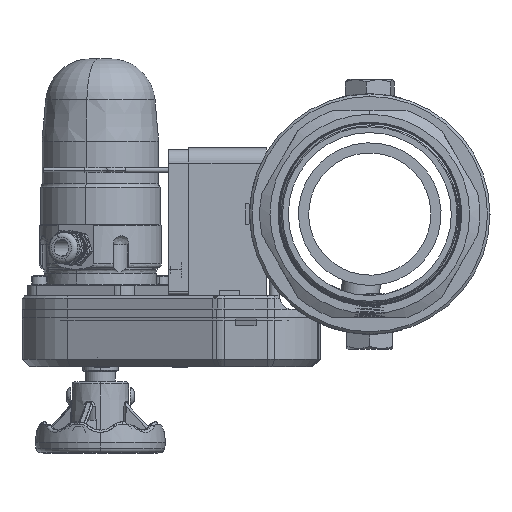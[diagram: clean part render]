
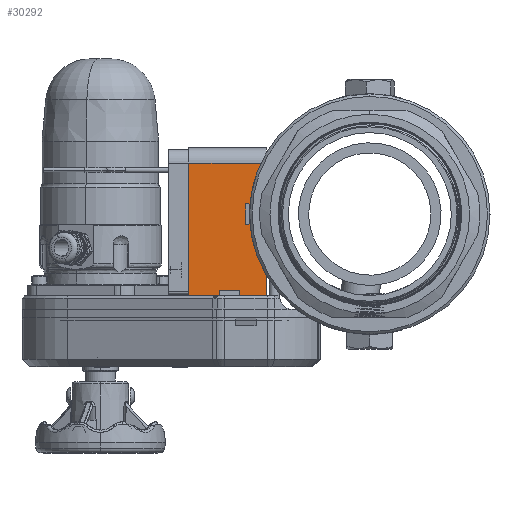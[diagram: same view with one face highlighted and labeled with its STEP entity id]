
A CAD part, front view. The second image highlights one B-rep face of the part: STEP entity #30292.
In plain terms, the highlighted planar face has unit normal (0, -1, 0).
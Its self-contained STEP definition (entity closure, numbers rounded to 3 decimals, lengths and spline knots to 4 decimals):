
#206 = ORIENTED_EDGE ( 'NONE', *, *, #14008, .T. ) ;
#3487 = CARTESIAN_POINT ( 'NONE',  ( -3.04, -4.185, -0.25 ) ) ;
#4943 = EDGE_CURVE ( 'NONE', #47124, #19398, #22278, .T. ) ;
#5003 = EDGE_CURVE ( 'NONE', #23747, #45329, #13721, .T. ) ;
#5522 = VERTEX_POINT ( 'NONE', #32529 ) ;
#5637 = ORIENTED_EDGE ( 'NONE', *, *, #47358, .F. ) ;
#7006 = CARTESIAN_POINT ( 'NONE',  ( -3.7, -4.185, -1.875 ) ) ;
#7264 = LINE ( 'NONE', #36265, #10680 ) ;
#7791 = CARTESIAN_POINT ( 'NONE',  ( -4.47, -4.185, -2. ) ) ;
#7831 = VECTOR ( 'NONE', #40340, 39.3701 ) ;
#8038 = VECTOR ( 'NONE', #37608, 39.3701 ) ;
#8162 = ORIENTED_EDGE ( 'NONE', *, *, #26551, .F. ) ;
#8557 = CARTESIAN_POINT ( 'NONE',  ( -3.04, -4.185, 0.25 ) ) ;
#9264 = EDGE_CURVE ( 'NONE', #5522, #26861, #16870, .T. ) ;
#9437 = VECTOR ( 'NONE', #18274, 39.3701 ) ;
#10680 = VECTOR ( 'NONE', #14409, 39.3701 ) ;
#12580 = VECTOR ( 'NONE', #43910, 39.3701 ) ;
#13377 = EDGE_CURVE ( 'NONE', #22228, #26861, #17369, .T. ) ;
#13607 = EDGE_CURVE ( 'NONE', #45697, #19398, #25364, .T. ) ;
#13721 = LINE ( 'NONE', #42352, #12580 ) ;
#14008 = EDGE_CURVE ( 'NONE', #33046, #23747, #35594, .T. ) ;
#14280 = CARTESIAN_POINT ( 'NONE',  ( -2.54, -4.185, -2. ) ) ;
#14409 = DIRECTION ( 'NONE',  ( 1., 0., 0. ) ) ;
#14799 = LINE ( 'NONE', #46100, #44504 ) ;
#15053 = PLANE ( 'NONE',  #16078 ) ;
#15690 = DIRECTION ( 'NONE',  ( 0., -1., 0. ) ) ;
#16078 = AXIS2_PLACEMENT_3D ( 'NONE', #37056, #15690, #40889 ) ;
#16602 = LINE ( 'NONE', #37452, #8038 ) ;
#16619 = CARTESIAN_POINT ( 'NONE',  ( -4.44, -4.185, -2. ) ) ;
#16870 = LINE ( 'NONE', #36779, #9437 ) ;
#17235 = EDGE_CURVE ( 'NONE', #47124, #31403, #14799, .T. ) ;
#17369 = LINE ( 'NONE', #7791, #27080 ) ;
#17460 = ORIENTED_EDGE ( 'NONE', *, *, #13377, .T. ) ;
#18151 = LINE ( 'NONE', #29087, #31837 ) ;
#18274 = DIRECTION ( 'NONE',  ( 0., 0., -1. ) ) ;
#18749 = ORIENTED_EDGE ( 'NONE', *, *, #9264, .F. ) ;
#19398 = VERTEX_POINT ( 'NONE', #24451 ) ;
#20275 = ORIENTED_EDGE ( 'NONE', *, *, #32946, .F. ) ;
#21199 = DIRECTION ( 'NONE',  ( 0., 0., -1. ) ) ;
#21632 = CARTESIAN_POINT ( 'NONE',  ( -3.2, -4.185, -2. ) ) ;
#22228 = VERTEX_POINT ( 'NONE', #21632 ) ;
#22278 = LINE ( 'NONE', #36106, #34266 ) ;
#23747 = VERTEX_POINT ( 'NONE', #16619 ) ;
#24392 = CARTESIAN_POINT ( 'NONE',  ( -3.2, -4.185, -1.875 ) ) ;
#24451 = CARTESIAN_POINT ( 'NONE',  ( -2.54, -4.185, 0.25 ) ) ;
#24752 = VECTOR ( 'NONE', #27271, 39.3701 ) ;
#25124 = VERTEX_POINT ( 'NONE', #26936 ) ;
#25364 = LINE ( 'NONE', #43634, #33327 ) ;
#25609 = DIRECTION ( 'NONE',  ( 0., 0., -1. ) ) ;
#26062 = CARTESIAN_POINT ( 'NONE',  ( -4.44, -4.185, 1.25 ) ) ;
#26137 = DIRECTION ( 'NONE',  ( 1., 0., 0. ) ) ;
#26165 = ORIENTED_EDGE ( 'NONE', *, *, #4943, .T. ) ;
#26551 = EDGE_CURVE ( 'NONE', #33046, #45697, #30615, .T. ) ;
#26861 = VERTEX_POINT ( 'NONE', #14280 ) ;
#26936 = CARTESIAN_POINT ( 'NONE',  ( -3.2, -4.185, -1.875 ) ) ;
#27080 = VECTOR ( 'NONE', #26137, 39.3701 ) ;
#27271 = DIRECTION ( 'NONE',  ( 0., 0., -1. ) ) ;
#28045 = CARTESIAN_POINT ( 'NONE',  ( -3.7, -4.185, -2. ) ) ;
#28890 = EDGE_LOOP ( 'NONE', ( #46981, #17460, #18749, #20275, #46122, #26165, #46678, #8162, #206, #42403, #5637, #29856 ) ) ;
#29016 = VERTEX_POINT ( 'NONE', #7006 ) ;
#29087 = CARTESIAN_POINT ( 'NONE',  ( -3.7, -4.185, -1.875 ) ) ;
#29856 = ORIENTED_EDGE ( 'NONE', *, *, #45123, .F. ) ;
#30292 = ADVANCED_FACE ( 'NONE', ( #45829 ), #15053, .T. ) ;
#30615 = LINE ( 'NONE', #32531, #7831 ) ;
#31403 = VERTEX_POINT ( 'NONE', #3487 ) ;
#31837 = VECTOR ( 'NONE', #32781, 39.3701 ) ;
#32529 = CARTESIAN_POINT ( 'NONE',  ( -2.54, -4.185, -0.25 ) ) ;
#32531 = CARTESIAN_POINT ( 'NONE',  ( -4.47, -4.185, 1.25 ) ) ;
#32781 = DIRECTION ( 'NONE',  ( 0., 0., -1. ) ) ;
#32946 = EDGE_CURVE ( 'NONE', #31403, #5522, #7264, .T. ) ;
#33046 = VERTEX_POINT ( 'NONE', #26062 ) ;
#33327 = VECTOR ( 'NONE', #25609, 39.3701 ) ;
#34266 = VECTOR ( 'NONE', #39756, 39.3701 ) ;
#35567 = DIRECTION ( 'NONE',  ( 0., 0., -1. ) ) ;
#35594 = LINE ( 'NONE', #45464, #24752 ) ;
#36106 = CARTESIAN_POINT ( 'NONE',  ( -3.04, -4.185, 0.25 ) ) ;
#36133 = CARTESIAN_POINT ( 'NONE',  ( -2.54, -4.185, 1.25 ) ) ;
#36265 = CARTESIAN_POINT ( 'NONE',  ( -3.04, -4.185, -0.25 ) ) ;
#36779 = CARTESIAN_POINT ( 'NONE',  ( -2.54, -4.185, 1.25 ) ) ;
#37056 = CARTESIAN_POINT ( 'NONE',  ( -4.47, -4.185, 1.25 ) ) ;
#37452 = CARTESIAN_POINT ( 'NONE',  ( -3.2, -4.185, -1.875 ) ) ;
#37608 = DIRECTION ( 'NONE',  ( -1., 0., 0. ) ) ;
#37773 = EDGE_CURVE ( 'NONE', #25124, #22228, #37844, .T. ) ;
#37844 = LINE ( 'NONE', #24392, #45830 ) ;
#39756 = DIRECTION ( 'NONE',  ( 1., 0., 0. ) ) ;
#40340 = DIRECTION ( 'NONE',  ( 1., 0., 0. ) ) ;
#40889 = DIRECTION ( 'NONE',  ( 0., 0., -1. ) ) ;
#42352 = CARTESIAN_POINT ( 'NONE',  ( -4.47, -4.185, -2. ) ) ;
#42403 = ORIENTED_EDGE ( 'NONE', *, *, #5003, .T. ) ;
#43634 = CARTESIAN_POINT ( 'NONE',  ( -2.54, -4.185, 1.25 ) ) ;
#43910 = DIRECTION ( 'NONE',  ( 1., 0., 0. ) ) ;
#44504 = VECTOR ( 'NONE', #21199, 39.3701 ) ;
#45123 = EDGE_CURVE ( 'NONE', #25124, #29016, #16602, .T. ) ;
#45329 = VERTEX_POINT ( 'NONE', #28045 ) ;
#45464 = CARTESIAN_POINT ( 'NONE',  ( -4.44, -4.185, 1.25 ) ) ;
#45697 = VERTEX_POINT ( 'NONE', #36133 ) ;
#45829 = FACE_OUTER_BOUND ( 'NONE', #28890, .T. ) ;
#45830 = VECTOR ( 'NONE', #35567, 39.3701 ) ;
#46100 = CARTESIAN_POINT ( 'NONE',  ( -3.04, -4.185, 0.25 ) ) ;
#46122 = ORIENTED_EDGE ( 'NONE', *, *, #17235, .F. ) ;
#46678 = ORIENTED_EDGE ( 'NONE', *, *, #13607, .F. ) ;
#46981 = ORIENTED_EDGE ( 'NONE', *, *, #37773, .T. ) ;
#47124 = VERTEX_POINT ( 'NONE', #8557 ) ;
#47358 = EDGE_CURVE ( 'NONE', #29016, #45329, #18151, .T. ) ;
